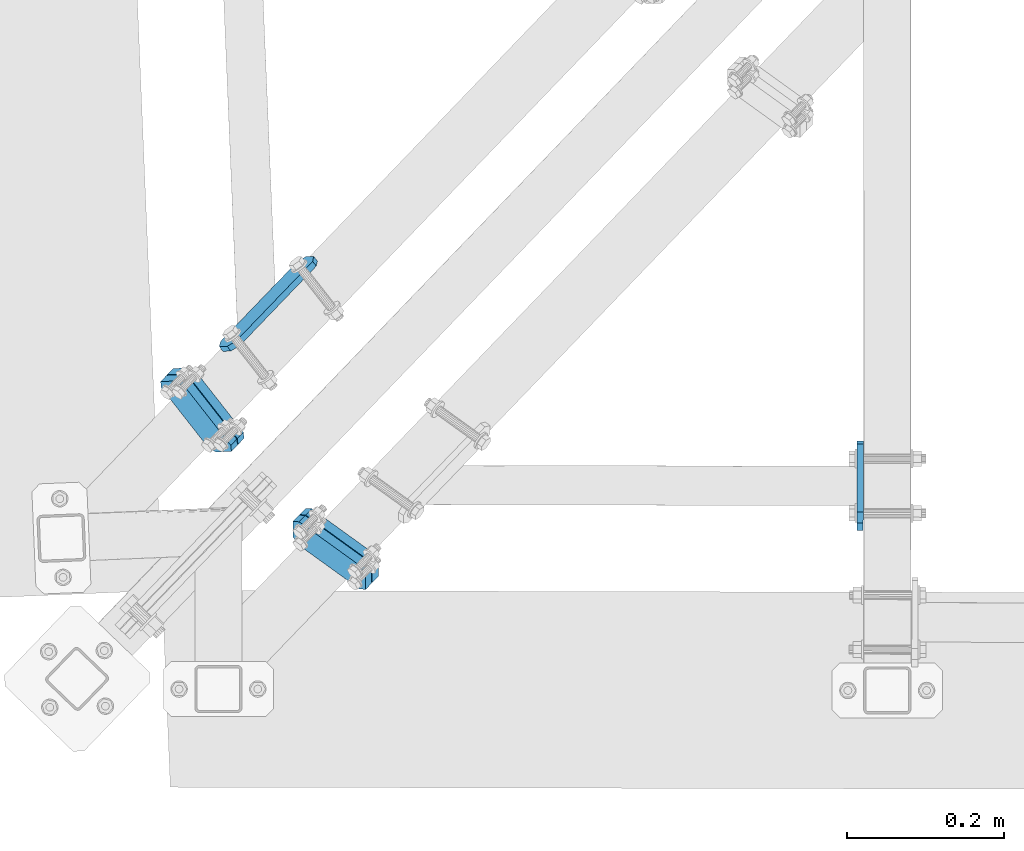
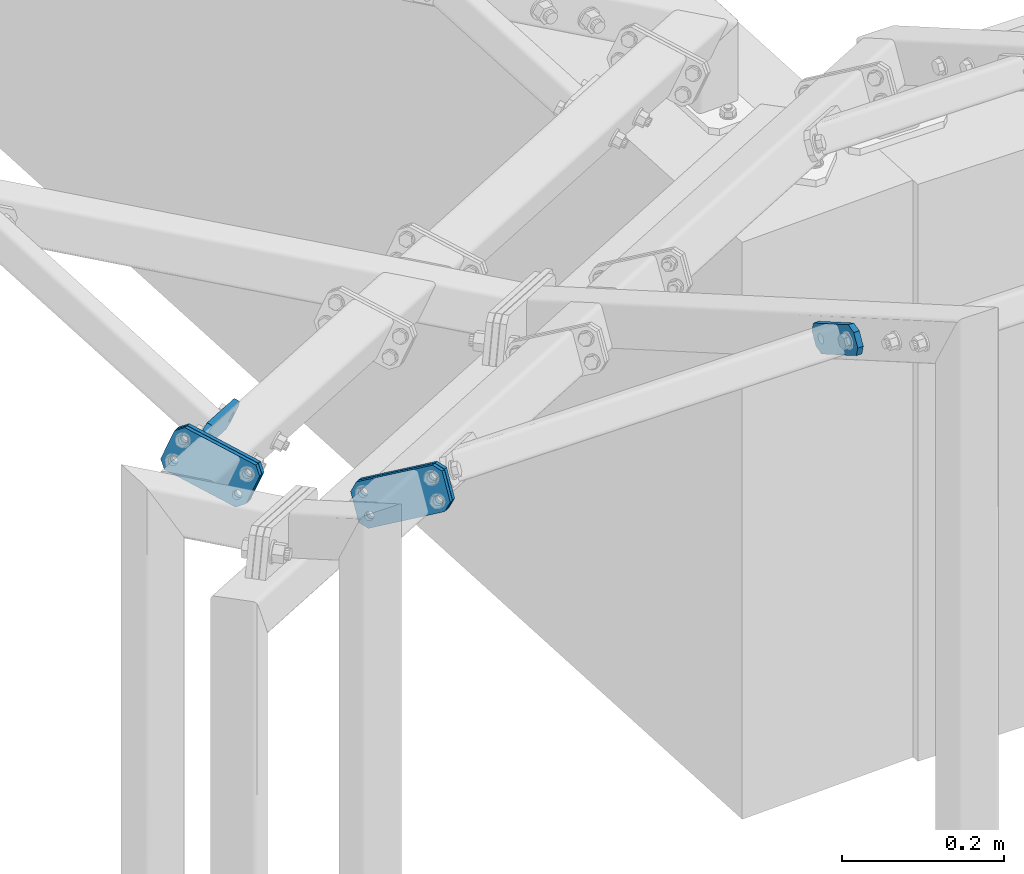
# One storey, part 23 of 288: 6 plates, 44 openings.
"""IFC2X3 building model written with IfcOpenShell, lengths in millimetres."""

import ifcopenshell
import ifcopenshell.guid

model = None  # the IFC model being written
_history = None  # IfcOwnerHistory: only IFC2X3 demands one
_inside = {}  # id of a spatial element -> (the spatial element, [elements in it])
_under = {}  # id of a project, library or spatial element -> (it, [spatial elements below it])
_declared = {}  # id of a project -> (the project, [libraries it declares])
_typed = {}  # id of a type object -> (the type object, [elements of that type])
_made_of = {}  # id of a material, layer set ... -> (it, [elements and type objects made of it])


def new_model(schema):
    """Start an empty IFC model of exactly this schema.

    Asked for "IFC4X3", IfcOpenShell would pick the latest addendum, in which some entities
    have other attributes; the version numbers below select the first issue.
    IFC2X3 requires an IfcOwnerHistory on every rooted entity: one is made here for all.
    """
    global model, _history
    if schema == "IFC4X3":
        model = ifcopenshell.file(schema_version=(4, 3, 0, 0))
    else:
        model = ifcopenshell.file(schema=schema)
    _inside.clear()
    _under.clear()
    _declared.clear()
    _typed.clear()
    _made_of.clear()
    _history = None
    if model.schema == "IFC2X3":
        org = make("IfcOrganization", Name="unknown")
        user = make(
            "IfcPersonAndOrganization",
            ThePerson=make("IfcPerson", FamilyName="unknown"),
            TheOrganization=org,
        )
        app = make(
            "IfcApplication",
            ApplicationDeveloper=org,
            Version="unknown",
            ApplicationFullName="unknown",
            ApplicationIdentifier="unknown",
        )
        _history = make(
            "IfcOwnerHistory",
            OwningUser=user,
            OwningApplication=app,
            ChangeAction="ADDED",
            CreationDate=0,
        )
    return model


def make(cls, **values):
    """One entity of the class cls with the attributes given. An attribute that is None is left unset."""
    return model.create_entity(
        cls, **{name: value for name, value in values.items() if value is not None}
    )


def entity(cls, *values):
    """Any entity or typed value of the class cls, its attributes in the order of the schema. None: left unset."""
    e = model.create_entity(cls)
    for i, value in enumerate(values):
        if value is not None:
            e[i] = value
    return e


def rooted(cls, **values):
    """An entity with a GlobalId (a new one), such as an element, a storey or a relation."""
    return make(cls, GlobalId=ifcopenshell.guid.new(), OwnerHistory=_history, **values)


def si_unit(unit_type, name, prefix=None):
    """IfcSIUnit, for example si_unit("LENGTHUNIT", "METRE", prefix="MILLI")."""
    return make("IfcSIUnit", UnitType=unit_type, Prefix=prefix, Name=name)


def converted_unit(unit_type, name, factor, base, dimensions=None, offset=None):
    """IfcConversionBasedUnit, such as the inch: factor (a typed value) times the base unit."""
    return make(
        "IfcConversionBasedUnit"
        if offset is None
        else "IfcConversionBasedUnitWithOffset",
        ConversionOffset=offset,
        Dimensions=None
        if dimensions is None
        else entity("IfcDimensionalExponents", *dimensions),
        UnitType=unit_type,
        Name=name,
        ConversionFactor=make(
            "IfcMeasureWithUnit", ValueComponent=factor, UnitComponent=base
        ),
    )


def assignment(units):
    """IfcUnitAssignment: the units of a project."""
    return None if units is None else make("IfcUnitAssignment", Units=units)


def point(xyz):
    """IfcCartesianPoint."""
    return None if xyz is None else make("IfcCartesianPoint", Coordinates=xyz)


def direction(xyz):
    """IfcDirection."""
    return None if xyz is None else make("IfcDirection", DirectionRatios=xyz)


def frame(location, z_axis=None, x_axis=None):
    """IfcAxis2Placement3D, a coordinate frame: its origin and axes. An axis left out is left unset."""
    return make(
        "IfcAxis2Placement3D",
        Location=point(location),
        Axis=direction(z_axis),
        RefDirection=direction(x_axis),
    )


def frame_2d(location, x_axis=None):
    """IfcAxis2Placement2D, a coordinate frame in the plane: its origin and x axis."""
    return make(
        "IfcAxis2Placement2D", Location=point(location), RefDirection=direction(x_axis)
    )


def origin():
    """The frame at (0, 0, 0) with its axes left unset."""
    return frame((0.0, 0.0, 0.0))


def origin_with_axes():
    """The frame at (0, 0, 0) with the z axis (0, 0, 1) and the x axis (1, 0, 0) written out."""
    return frame((0.0, 0.0, 0.0), z_axis=(0.0, 0.0, 1.0), x_axis=(1.0, 0.0, 0.0))


def origin_2d_with_axis():
    """The frame at (0, 0) in the plane with the x axis (1, 0) written out."""
    return frame_2d((0.0, 0.0), x_axis=(1.0, 0.0))


def place(relative_to, where):
    """IfcLocalPlacement: puts the frame where relative to a parent placement (None: the world)."""
    return make(
        "IfcLocalPlacement", PlacementRelTo=relative_to, RelativePlacement=where
    )


def context(
    kind, dimensions, precision=None, world=None, true_north=None, identifier=None
):
    """IfcGeometricRepresentationContext, for example the 3D "Model" context."""
    return make(
        "IfcGeometricRepresentationContext",
        ContextIdentifier=identifier,
        ContextType=kind,
        CoordinateSpaceDimension=dimensions,
        Precision=precision,
        WorldCoordinateSystem=world,
        TrueNorth=true_north,
    )


def project(units=None, contexts=None):
    """IfcProject with its units and contexts."""
    return rooted(
        "IfcProject",
        Name="project",
        RepresentationContexts=contexts,
        UnitsInContext=assignment(units),
    )


def spatial(cls, under=None, at=None, **own):
    """A site, building, storey or space (cls), placed at a placement, below another one or the project."""
    s = rooted(cls, ObjectPlacement=at, **own)
    if under is not None:
        _under.setdefault(under.id(), (under, []))[1].append(s)
    return s


def polyline(points):
    """IfcPolyline through the points."""
    return make("IfcPolyline", Points=[point(p) for p in points])


def circle_curve(where, radius):
    """IfcCircle in the frame where."""
    return make("IfcCircle", Position=where, Radius=radius)


def line_curve(start, along, magnitude):
    """IfcLine from a point along a vector."""
    return make(
        "IfcLine",
        Pnt=point(start),
        Dir=make("IfcVector", Orientation=direction(along), Magnitude=magnitude),
    )


def trimmed(basis, trim1, trim2, sense, master):
    """IfcTrimmedCurve: the piece of a basis curve between two trims."""
    return make(
        "IfcTrimmedCurve",
        BasisCurve=basis,
        Trim1=trim1,
        Trim2=trim2,
        SenseAgreement=sense,
        MasterRepresentation=master,
    )


def segment(curve, same_sense, transition):
    """IfcCompositeCurveSegment."""
    return make(
        "IfcCompositeCurveSegment",
        Transition=transition,
        SameSense=same_sense,
        ParentCurve=curve,
    )


def composite_curve(segments, self_intersect=None):
    """IfcCompositeCurve: segments joined end to end."""
    return make("IfcCompositeCurve", Segments=segments, SelfIntersect=self_intersect)


def profile(cls, at=None, kind="AREA", **sizes):
    """A parametric profile (cls). Its sizes go by their IFC names, for example OverallWidth=200.0."""
    return make(cls, ProfileType=kind, Position=at, **sizes)


def circle(**sizes):
    """IfcCircleProfileDef."""
    return profile("IfcCircleProfileDef", **sizes)


def outline(outer, holes=None, kind="AREA"):
    """IfcArbitraryClosedProfileDef: a profile drawn as a closed curve; with holes, ...WithVoids."""
    if holes is None:
        return make("IfcArbitraryClosedProfileDef", ProfileType=kind, OuterCurve=outer)
    return make(
        "IfcArbitraryProfileDefWithVoids",
        ProfileType=kind,
        OuterCurve=outer,
        InnerCurves=holes,
    )


def extrude(swept, where, along, depth):
    """IfcExtrudedAreaSolid: the profile swept, set in the frame where, extruded along a direction by depth."""
    return make(
        "IfcExtrudedAreaSolid",
        SweptArea=swept,
        Position=where,
        ExtrudedDirection=direction(along),
        Depth=depth,
    )


def shape(context_of_items, identifier, shape_type, items):
    """IfcShapeRepresentation: the items that make up one representation, for example the "Body"."""
    return make(
        "IfcShapeRepresentation",
        ContextOfItems=context_of_items,
        RepresentationIdentifier=identifier,
        RepresentationType=shape_type,
        Items=items,
    )


def material(Name=None, Category=None):
    """IfcMaterial."""
    return make("IfcMaterial", Name=Name, Category=Category)


def layer(
    of_material, thickness, ventilated=None, Name=None, Category=None, Priority=None
):
    """IfcMaterialLayer: one layer of a wall or slab, of a material (None: an air gap)."""
    return make(
        "IfcMaterialLayer",
        Material=of_material,
        LayerThickness=thickness,
        IsVentilated=ventilated,
        Name=Name,
        Category=Category,
        Priority=Priority,
    )


def layer_set(layers, Name=None):
    """IfcMaterialLayerSet."""
    return make("IfcMaterialLayerSet", MaterialLayers=layers, LayerSetName=Name)


def made_of(thing, what):
    """Note that an element or type object is made of a material, layer set ...; save() writes the relation."""
    if what is not None:
        _made_of.setdefault(what.id(), (what, []))[1].append(thing)
    return thing


def element(
    cls,
    number,
    at=None,
    inside=None,
    cuts=None,
    type_object=None,
    material=None,
    context=None,
    identifier="Body",
    shape_type=None,
    held_by="IfcProductDefinitionShape",
    body=None,
    shapes=None,
    **own,
):
    """One element of the class cls, such as IfcWall. Its Tag is "e" and its number.

    at: its placement. inside: the storey or other place that contains it. cuts: it is an
    opening in that element (IfcRelVoidsElement). A single representation is given by context,
    identifier, shape_type and body (its items); several are given by shapes. held_by: the class
    of the entity that holds the representations. save() writes the other relations.
    """
    e = rooted(cls, Tag="e%d" % number, ObjectPlacement=at, **own)
    if body is not None:
        shapes = [shape(context, identifier, shape_type, body)]
    if shapes is not None:
        e.Representation = make(held_by, Representations=shapes)
    if inside is not None:
        _inside.setdefault(inside.id(), (inside, []))[1].append(e)
    if cuts is not None:
        rooted(
            "IfcRelVoidsElement", RelatingBuildingElement=cuts, RelatedOpeningElement=e
        )
    if type_object is not None:
        _typed.setdefault(type_object.id(), (type_object, []))[1].append(e)
    return made_of(e, material)


def aggregate(whole, parts):
    """IfcRelAggregates: a whole, such as a stair, and the parts it consists of."""
    return rooted("IfcRelAggregates", RelatingObject=whole, RelatedObjects=parts)


def save(model, path):
    """Write the relations noted so far, then the file.

    IfcRelAggregates (storeys below a building ...), IfcRelContainedInSpatialStructure (elements
    in a storey), IfcRelDefinesByType, IfcRelAssociatesMaterial and IfcRelDeclares: one each for
    every whole, place, type object, material and project.
    """
    for whole, parts in _under.values():
        aggregate(whole, parts)
    for where, things in _inside.values():
        rooted(
            "IfcRelContainedInSpatialStructure",
            RelatedElements=things,
            RelatingStructure=where,
        )
    for kind, things in _typed.values():
        rooted("IfcRelDefinesByType", RelatedObjects=things, RelatingType=kind)
    for what, things in _made_of.values():
        rooted("IfcRelAssociatesMaterial", RelatedObjects=things, RelatingMaterial=what)
    for by, libraries in _declared.values():
        rooted("IfcRelDeclares", RelatingContext=by, RelatedDefinitions=libraries)
    model.write(path)


model = new_model("IFC2X3")

# Units and contexts
model_context = context("Model", 3, precision=1e-09, world=origin_with_axes())
ifc_project = project(units=[si_unit("LENGTHUNIT", "METRE", prefix="MILLI"), si_unit("AREAUNIT", "SQUARE_METRE"), si_unit("VOLUMEUNIT", "CUBIC_METRE"), converted_unit("PLANEANGLEUNIT", "DEGREE", entity("IfcPlaneAngleMeasure", 0.01745329), si_unit("PLANEANGLEUNIT", "RADIAN"), dimensions=[0, 0, 0, 0, 0, 0, 0])], contexts=[model_context])

# Site, building, storey
site_placement = place(None, origin_with_axes())
site = spatial("IfcSite", under=ifc_project, at=site_placement, Name="Remont ?wietlik?w nad MC w NCPP w Opolu", CompositionType="ELEMENT")
building_placement = place(site_placement, origin_with_axes())
building = spatial("IfcBuilding", under=site, at=building_placement, Name="Konstrukcja 1", CompositionType="ELEMENT")
storey_placement = place(building_placement, origin_with_axes())
storey = spatial("IfcBuildingStorey", under=building, at=storey_placement, Name="Default Storey", CompositionType="ELEMENT", Elevation=0.0)

# Plate, openings
ifc_material = material(Name="S235")
ifc_layer_1 = layer(ifc_material, 8.0)
ifc_layer_set_1 = layer_set([ifc_layer_1], Name="S235")
plate_1_placement = place(None, frame((883.064238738, 70.94446698, 1132.628219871), z_axis=(0.999997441, -0.002262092, 1.05e-07), x_axis=(0.001959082, 0.866023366, -0.499999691)))
plate_1 = element("IfcPlate", 1, at=plate_1_placement, inside=storey, material=ifc_layer_set_1, Name="-", ObjectType="-", context=model_context, shape_type="SweptSolid", body=[
    extrude(outline(polyline([(0.0, 0.0), (120.0, 0.0), (120.0, 40.0), (0.0, 40.0), (0.0, 0.0)])), origin_with_axes(), (0.0, 0.0, 1.0), 8.0),
])
opening_1_placement = place(plate_1_placement, frame((0.0, 0.0, -0.01), z_axis=(0.0, 0.0, 1.0), x_axis=(1.0, 0.0, 0.0)))
element("IfcOpeningElement", 2, at=opening_1_placement, cuts=plate_1, ObjectType="Opening", context=model_context, shape_type="SweptSolid", body=[
    extrude(outline(composite_curve([segment(trimmed(line_curve((0.0, 40.0), (0.0, -1.0), 10.0), [point((0.0, 40.0))], [point((0.0, 30.0))], True, "CARTESIAN"), True, "CONTINUOUS"), segment(trimmed(circle_curve(frame_2d((10.0, 30.0), x_axis=(-1.0, 0.0)), 10.0), [point((0.0, 30.0))], [point((10.0, 40.0))], False, "CARTESIAN"), True, "CONTINUOUS"), segment(trimmed(line_curve((10.0, 40.0), (-1.0, 0.0), 10.0), [point((10.0, 40.0))], [point((0.0, 40.0))], True, "CARTESIAN"), True, "CONTINUOUS")], self_intersect=False)), origin(), (0.0, 0.0, 1.0), 8.02),
])
opening_2_placement = place(plate_1_placement, frame((0.0, 0.0, -0.01), z_axis=(0.0, 0.0, 1.0), x_axis=(1.0, 0.0, 0.0)))
element("IfcOpeningElement", 3, at=opening_2_placement, cuts=plate_1, ObjectType="Opening", context=model_context, shape_type="SweptSolid", body=[
    extrude(outline(composite_curve([segment(trimmed(line_curve((0.0, 0.0), (1.0, 0.0), 10.0), [point((0.0, 0.0))], [point((10.0, 0.0))], True, "CARTESIAN"), True, "CONTINUOUS"), segment(trimmed(circle_curve(frame_2d((10.0, 10.0), x_axis=(-1.0, 0.0)), 10.0), [point((10.0, 0.0))], [point((0.0, 10.0))], False, "CARTESIAN"), True, "CONTINUOUS"), segment(trimmed(line_curve((0.0, 10.0), (0.0, -1.0), 10.0), [point((0.0, 10.0))], [point((0.0, 0.0))], True, "CARTESIAN"), True, "CONTINUOUS")], self_intersect=False)), origin(), (0.0, 0.0, 1.0), 8.02),
])
opening_3_placement = place(plate_1_placement, frame((0.0, 0.0, -0.01), z_axis=(0.0, 0.0, 1.0), x_axis=(1.0, 0.0, 0.0)))
element("IfcOpeningElement", 4, at=opening_3_placement, cuts=plate_1, ObjectType="Opening", context=model_context, shape_type="SweptSolid", body=[
    extrude(outline(composite_curve([segment(trimmed(line_curve((120.0, 40.0), (-1.0, 0.0), 10.0), [point((120.0, 40.0))], [point((110.0, 40.0))], True, "CARTESIAN"), True, "CONTINUOUS"), segment(trimmed(circle_curve(frame_2d((110.0, 30.0), x_axis=(-1.0, 0.0)), 10.0), [point((110.0, 40.0))], [point((120.0, 30.0))], False, "CARTESIAN"), True, "CONTINUOUS"), segment(trimmed(line_curve((120.0, 30.0), (0.0, 1.0), 10.0), [point((120.0, 30.0))], [point((120.0, 40.0))], True, "CARTESIAN"), True, "CONTINUOUS")], self_intersect=False)), origin(), (0.0, 0.0, 1.0), 8.02),
])
opening_4_placement = place(plate_1_placement, frame((0.0, 0.0, -0.01), z_axis=(0.0, 0.0, 1.0), x_axis=(1.0, 0.0, 0.0)))
element("IfcOpeningElement", 5, at=opening_4_placement, cuts=plate_1, ObjectType="Opening", context=model_context, shape_type="SweptSolid", body=[
    extrude(outline(composite_curve([segment(trimmed(line_curve((120.0, 0.0), (0.0, 1.0), 10.0), [point((120.0, 0.0))], [point((120.0, 10.0))], True, "CARTESIAN"), True, "CONTINUOUS"), segment(trimmed(circle_curve(frame_2d((110.0, 10.0), x_axis=(-1.0, 0.0)), 10.0), [point((120.0, 10.0))], [point((110.0, 0.0))], False, "CARTESIAN"), True, "CONTINUOUS"), segment(trimmed(line_curve((110.0, 0.0), (1.0, 0.0), 10.0), [point((110.0, 0.0))], [point((120.0, 0.0))], True, "CARTESIAN"), True, "CONTINUOUS")], self_intersect=False)), origin(), (0.0, 0.0, 1.0), 8.02),
])
opening_5_placement = place(plate_1_placement, frame((60.0, 20.000292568, 8.5), z_axis=(0.0, 0.0, -1.0), x_axis=(-1.0, 0.0, 0.0)))
element("IfcOpeningElement", 6, at=opening_5_placement, cuts=plate_1, ObjectType="Opening", context=model_context, shape_type="SweptSolid", body=[
    extrude(circle(Radius=7.001, at=frame_2d((40.0, 0.0), x_axis=(1.0, 0.0))), origin(), (0.0, 0.0, 1.0), 9.0),
])
opening_6_placement = place(plate_1_placement, frame((60.0, 20.000292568, 8.5), z_axis=(0.0, 0.0, -1.0), x_axis=(-1.0, 0.0, 0.0)))
element("IfcOpeningElement", 7, at=opening_6_placement, cuts=plate_1, ObjectType="Opening", context=model_context, shape_type="SweptSolid", body=[
    extrude(circle(Radius=7.001, at=frame_2d((-40.0, 0.0), x_axis=(1.0, 0.0))), origin(), (0.0, 0.0, 1.0), 9.0),
])

ifc_layer_2 = layer(ifc_material, 12.0)
ifc_layer_set_2 = layer_set([ifc_layer_2], Name="S235")
plate_2_placement = place(None, frame((267.101011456, 34.978434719, 1211.077748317), z_axis=(0.639790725, 0.665583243, -0.384274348), x_axis=(0.0, -0.499999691, -0.866025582)))
plate_2 = element("IfcPlate", 8, at=plate_2_placement, inside=storey, material=ifc_layer_set_2, Name="Endplate#1", ObjectType="Endplate#1", context=model_context, shape_type="SweptSolid", body=[
    extrude(outline(polyline([(0.0, 0.0), (60.0, 0.0), (60.0, 120.0), (0.0, 120.0), (0.0, 0.0)])), origin_with_axes(), (0.0, 0.0, 1.0), 12.0),
])
opening_7_placement = place(plate_2_placement, frame((0.0, 0.0, -0.01), z_axis=(0.0, 0.0, 1.0), x_axis=(1.0, 0.0, 0.0)))
element("IfcOpeningElement", 9, at=opening_7_placement, cuts=plate_2, ObjectType="Opening", context=model_context, shape_type="SweptSolid", body=[
    extrude(outline(composite_curve([segment(trimmed(line_curve((0.0, 0.0), (1.0, 0.0), 10.0), [point((0.0, 0.0))], [point((10.0, 0.0))], True, "CARTESIAN"), True, "CONTINUOUS"), segment(trimmed(circle_curve(frame_2d((10.0, 10.0), x_axis=(-1.0, 0.0)), 10.0), [point((10.0, 0.0))], [point((0.0, 10.0))], False, "CARTESIAN"), True, "CONTINUOUS"), segment(trimmed(line_curve((0.0, 10.0), (0.0, -1.0), 10.0), [point((0.0, 10.0))], [point((0.0, 0.0))], True, "CARTESIAN"), True, "CONTINUOUS")], self_intersect=False)), origin(), (0.0, 0.0, 1.0), 12.02),
])
opening_8_placement = place(plate_2_placement, frame((0.0, 0.0, -0.01), z_axis=(0.0, 0.0, 1.0), x_axis=(1.0, 0.0, 0.0)))
element("IfcOpeningElement", 10, at=opening_8_placement, cuts=plate_2, ObjectType="Opening", context=model_context, shape_type="SweptSolid", body=[
    extrude(outline(composite_curve([segment(trimmed(line_curve((60.0, 0.0), (0.0, 1.0), 10.0), [point((60.0, 0.0))], [point((60.0, 10.0))], True, "CARTESIAN"), True, "CONTINUOUS"), segment(trimmed(circle_curve(frame_2d((50.0, 10.0), x_axis=(-1.0, 0.0)), 10.0), [point((60.0, 10.0))], [point((50.0, 0.0))], False, "CARTESIAN"), True, "CONTINUOUS"), segment(trimmed(line_curve((50.0, 0.0), (1.0, 0.0), 10.0), [point((50.0, 0.0))], [point((60.0, 0.0))], True, "CARTESIAN"), True, "CONTINUOUS")], self_intersect=False)), origin(), (0.0, 0.0, 1.0), 12.02),
])
opening_9_placement = place(plate_2_placement, frame((0.0, 0.0, -0.01), z_axis=(0.0, 0.0, 1.0), x_axis=(1.0, 0.0, 0.0)))
element("IfcOpeningElement", 11, at=opening_9_placement, cuts=plate_2, ObjectType="Opening", context=model_context, shape_type="SweptSolid", body=[
    extrude(outline(composite_curve([segment(trimmed(line_curve((0.0, 120.0), (0.0, -1.0), 10.0), [point((0.0, 120.0))], [point((0.0, 110.0))], True, "CARTESIAN"), True, "CONTINUOUS"), segment(trimmed(circle_curve(frame_2d((10.0, 110.0), x_axis=(-1.0, 0.0)), 10.0), [point((0.0, 110.0))], [point((10.0, 120.0))], False, "CARTESIAN"), True, "CONTINUOUS"), segment(trimmed(line_curve((10.0, 120.0), (-1.0, 0.0), 10.0), [point((10.0, 120.0))], [point((0.0, 120.0))], True, "CARTESIAN"), True, "CONTINUOUS")], self_intersect=False)), origin(), (0.0, 0.0, 1.0), 12.02),
])
opening_10_placement = place(plate_2_placement, frame((0.0, 0.0, -0.01), z_axis=(0.0, 0.0, 1.0), x_axis=(1.0, 0.0, 0.0)))
element("IfcOpeningElement", 12, at=opening_10_placement, cuts=plate_2, ObjectType="Opening", context=model_context, shape_type="SweptSolid", body=[
    extrude(outline(composite_curve([segment(trimmed(line_curve((60.0, 120.0), (-1.0, 0.0), 10.0), [point((60.0, 120.0))], [point((50.0, 120.0))], True, "CARTESIAN"), True, "CONTINUOUS"), segment(trimmed(circle_curve(frame_2d((50.0, 110.0), x_axis=(-1.0, 0.0)), 10.0), [point((50.0, 120.0))], [point((60.0, 110.0))], False, "CARTESIAN"), True, "CONTINUOUS"), segment(trimmed(line_curve((60.0, 110.0), (0.0, 1.0), 10.0), [point((60.0, 110.0))], [point((60.0, 120.0))], True, "CARTESIAN"), True, "CONTINUOUS")], self_intersect=False)), origin(), (0.0, 0.0, 1.0), 12.02),
])
opening_11_placement = place(plate_2_placement, frame((15.0, 60.0, 12.5), z_axis=(0.0, 0.0, -1.0), x_axis=(1.0, 0.0, 0.0)))
element("IfcOpeningElement", 13, at=opening_11_placement, cuts=plate_2, ObjectType="Opening", context=model_context, shape_type="SweptSolid", body=[
    extrude(circle(Radius=6.001, at=frame_2d((0.0, 45.0), x_axis=(1.0, 0.0))), origin(), (0.0, 0.0, 1.0), 13.0),
])
opening_12_placement = place(plate_2_placement, frame((15.0, 60.0, 12.5), z_axis=(0.0, 0.0, -1.0), x_axis=(1.0, 0.0, 0.0)))
element("IfcOpeningElement", 14, at=opening_12_placement, cuts=plate_2, ObjectType="Opening", context=model_context, shape_type="SweptSolid", body=[
    extrude(circle(Radius=6.001, at=frame_2d((0.0, -45.0), x_axis=(1.0, 0.0))), origin(), (0.0, 0.0, 1.0), 13.0),
])
opening_13_placement = place(plate_2_placement, frame((45.0, 60.0, 12.5), z_axis=(0.0, 0.0, -1.0), x_axis=(1.0, 0.0, 0.0)))
element("IfcOpeningElement", 15, at=opening_13_placement, cuts=plate_2, ObjectType="Opening", context=model_context, shape_type="SweptSolid", body=[
    extrude(circle(Radius=6.001, at=frame_2d((0.0, 45.0), x_axis=(1.0, 0.0))), origin(), (0.0, 0.0, 1.0), 13.0),
])
opening_14_placement = place(plate_2_placement, frame((45.0, 60.0, 12.5), z_axis=(0.0, 0.0, -1.0), x_axis=(1.0, 0.0, 0.0)))
element("IfcOpeningElement", 16, at=opening_14_placement, cuts=plate_2, ObjectType="Opening", context=model_context, shape_type="SweptSolid", body=[
    extrude(circle(Radius=6.001, at=frame_2d((0.0, -45.0), x_axis=(1.0, 0.0))), origin(), (0.0, 0.0, 1.0), 13.0),
])

plate_3_placement = place(None, frame((258.783732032, 26.325852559, 1216.073314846), z_axis=(0.639790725, 0.665583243, -0.384274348), x_axis=(0.0, -0.499999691, -0.866025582)))
plate_3 = element("IfcPlate", 17, at=plate_3_placement, inside=storey, material=ifc_layer_set_2, Name="Endplate#2", ObjectType="Endplate#2", context=model_context, shape_type="SweptSolid", body=[
    extrude(outline(polyline([(0.0, 0.0), (60.0, 0.0), (60.0, 120.0), (0.0, 120.0), (0.0, 0.0)])), origin_with_axes(), (0.0, 0.0, 1.0), 12.0),
])
opening_15_placement = place(plate_3_placement, frame((0.0, 0.0, -0.01), z_axis=(0.0, 0.0, 1.0), x_axis=(1.0, 0.0, 0.0)))
element("IfcOpeningElement", 18, at=opening_15_placement, cuts=plate_3, ObjectType="Opening", context=model_context, shape_type="SweptSolid", body=[
    extrude(outline(composite_curve([segment(trimmed(line_curve((0.0, 0.0), (1.0, 0.0), 10.0), [point((0.0, 0.0))], [point((10.0, 0.0))], True, "CARTESIAN"), True, "CONTINUOUS"), segment(trimmed(circle_curve(frame_2d((10.0, 10.0), x_axis=(-1.0, 0.0)), 10.0), [point((10.0, 0.0))], [point((0.0, 10.0))], False, "CARTESIAN"), True, "CONTINUOUS"), segment(trimmed(line_curve((0.0, 10.0), (0.0, -1.0), 10.0), [point((0.0, 10.0))], [point((0.0, 0.0))], True, "CARTESIAN"), True, "CONTINUOUS")], self_intersect=False)), origin(), (0.0, 0.0, 1.0), 12.02),
])
opening_16_placement = place(plate_3_placement, frame((0.0, 0.0, -0.01), z_axis=(0.0, 0.0, 1.0), x_axis=(1.0, 0.0, 0.0)))
element("IfcOpeningElement", 19, at=opening_16_placement, cuts=plate_3, ObjectType="Opening", context=model_context, shape_type="SweptSolid", body=[
    extrude(outline(composite_curve([segment(trimmed(line_curve((60.0, 0.0), (0.0, 1.0), 10.0), [point((60.0, 0.0))], [point((60.0, 10.0))], True, "CARTESIAN"), True, "CONTINUOUS"), segment(trimmed(circle_curve(frame_2d((50.0, 10.0), x_axis=(-1.0, 0.0)), 10.0), [point((60.0, 10.0))], [point((50.0, 0.0))], False, "CARTESIAN"), True, "CONTINUOUS"), segment(trimmed(line_curve((50.0, 0.0), (1.0, 0.0), 10.0), [point((50.0, 0.0))], [point((60.0, 0.0))], True, "CARTESIAN"), True, "CONTINUOUS")], self_intersect=False)), origin(), (0.0, 0.0, 1.0), 12.02),
])
opening_17_placement = place(plate_3_placement, frame((0.0, 0.0, -0.01), z_axis=(0.0, 0.0, 1.0), x_axis=(1.0, 0.0, 0.0)))
element("IfcOpeningElement", 20, at=opening_17_placement, cuts=plate_3, ObjectType="Opening", context=model_context, shape_type="SweptSolid", body=[
    extrude(outline(composite_curve([segment(trimmed(line_curve((0.0, 120.0), (0.0, -1.0), 10.0), [point((0.0, 120.0))], [point((0.0, 110.0))], True, "CARTESIAN"), True, "CONTINUOUS"), segment(trimmed(circle_curve(frame_2d((10.0, 110.0), x_axis=(-1.0, 0.0)), 10.0), [point((0.0, 110.0))], [point((10.0, 120.0))], False, "CARTESIAN"), True, "CONTINUOUS"), segment(trimmed(line_curve((10.0, 120.0), (-1.0, 0.0), 10.0), [point((10.0, 120.0))], [point((0.0, 120.0))], True, "CARTESIAN"), True, "CONTINUOUS")], self_intersect=False)), origin(), (0.0, 0.0, 1.0), 12.02),
])
opening_18_placement = place(plate_3_placement, frame((0.0, 0.0, -0.01), z_axis=(0.0, 0.0, 1.0), x_axis=(1.0, 0.0, 0.0)))
element("IfcOpeningElement", 21, at=opening_18_placement, cuts=plate_3, ObjectType="Opening", context=model_context, shape_type="SweptSolid", body=[
    extrude(outline(composite_curve([segment(trimmed(line_curve((60.0, 120.0), (-1.0, 0.0), 10.0), [point((60.0, 120.0))], [point((50.0, 120.0))], True, "CARTESIAN"), True, "CONTINUOUS"), segment(trimmed(circle_curve(frame_2d((50.0, 110.0), x_axis=(-1.0, 0.0)), 10.0), [point((50.0, 120.0))], [point((60.0, 110.0))], False, "CARTESIAN"), True, "CONTINUOUS"), segment(trimmed(line_curve((60.0, 110.0), (0.0, 1.0), 10.0), [point((60.0, 110.0))], [point((60.0, 120.0))], True, "CARTESIAN"), True, "CONTINUOUS")], self_intersect=False)), origin(), (0.0, 0.0, 1.0), 12.02),
])
opening_19_placement = place(plate_3_placement, frame((45.0, 60.0, 12.5), z_axis=(0.0, 0.0, -1.0), x_axis=(1.0, 0.0, 0.0)))
element("IfcOpeningElement", 22, at=opening_19_placement, cuts=plate_3, ObjectType="Opening", context=model_context, shape_type="SweptSolid", body=[
    extrude(circle(Radius=6.001, at=frame_2d((0.0, 45.0), x_axis=(1.0, 0.0))), origin(), (0.0, 0.0, 1.0), 13.0),
])
opening_20_placement = place(plate_3_placement, frame((45.0, 60.0, 12.5), z_axis=(0.0, 0.0, -1.0), x_axis=(1.0, 0.0, 0.0)))
element("IfcOpeningElement", 23, at=opening_20_placement, cuts=plate_3, ObjectType="Opening", context=model_context, shape_type="SweptSolid", body=[
    extrude(circle(Radius=6.001, at=frame_2d((0.0, -45.0), x_axis=(1.0, 0.0))), origin(), (0.0, 0.0, 1.0), 13.0),
])
opening_21_placement = place(plate_3_placement, frame((15.0, 60.0, 12.5), z_axis=(0.0, 0.0, -1.0), x_axis=(1.0, 0.0, 0.0)))
element("IfcOpeningElement", 24, at=opening_21_placement, cuts=plate_3, ObjectType="Opening", context=model_context, shape_type="SweptSolid", body=[
    extrude(circle(Radius=6.001, at=frame_2d((0.0, 45.0), x_axis=(1.0, 0.0))), origin(), (0.0, 0.0, 1.0), 13.0),
])
opening_22_placement = place(plate_3_placement, frame((15.0, 60.0, 12.5), z_axis=(0.0, 0.0, -1.0), x_axis=(1.0, 0.0, 0.0)))
element("IfcOpeningElement", 25, at=opening_22_placement, cuts=plate_3, ObjectType="Opening", context=model_context, shape_type="SweptSolid", body=[
    extrude(circle(Radius=6.001, at=frame_2d((0.0, -45.0), x_axis=(1.0, 0.0))), origin(), (0.0, 0.0, 1.0), 13.0),
])

plate_4_placement = place(None, frame((172.189827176, 398.249526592, 1111.787269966), z_axis=(0.584245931, -0.746219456, -0.319081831), x_axis=(-0.639601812, -0.665374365, 0.384949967)))
plate_4 = element("IfcPlate", 26, at=plate_4_placement, inside=storey, material=ifc_layer_set_1, Name="-", ObjectType="-", context=model_context, shape_type="SweptSolid", body=[
    extrude(outline(polyline([(-40.0, 0.0), (131.95358451, 0.0), (131.95358451, 40.000141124), (-40.0, 40.000141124), (-40.0, 0.0)])), origin_with_axes(), (0.0, 0.0, 1.0), 8.0),
])
opening_23_placement = place(plate_4_placement, frame((0.0, 0.0, -0.01), z_axis=(0.0, 0.0, 1.0), x_axis=(1.0, 0.0, 0.0)))
element("IfcOpeningElement", 27, at=opening_23_placement, cuts=plate_4, ObjectType="Opening", context=model_context, shape_type="SweptSolid", body=[
    extrude(outline(composite_curve([segment(trimmed(line_curve((-40.0, 0.0), (1.0, 0.0), 10.0), [point((-40.0, 0.0))], [point((-30.0, 0.0))], True, "CARTESIAN"), True, "CONTINUOUS"), segment(trimmed(circle_curve(frame_2d((-30.0, 10.0), x_axis=(-1.0, 0.0)), 10.0), [point((-30.0, 0.0))], [point((-40.0, 10.0))], False, "CARTESIAN"), True, "CONTINUOUS"), segment(trimmed(line_curve((-40.0, 10.0), (0.0, -1.0), 10.0), [point((-40.0, 10.0))], [point((-40.0, 0.0))], True, "CARTESIAN"), True, "CONTINUOUS")], self_intersect=False)), origin(), (0.0, 0.0, 1.0), 8.02),
])
opening_24_placement = place(plate_4_placement, frame((0.0, 0.0, -0.01), z_axis=(0.0, 0.0, 1.0), x_axis=(1.0, 0.0, 0.0)))
element("IfcOpeningElement", 28, at=opening_24_placement, cuts=plate_4, ObjectType="Opening", context=model_context, shape_type="SweptSolid", body=[
    extrude(outline(composite_curve([segment(trimmed(line_curve((-40.0, 40.000141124), (0.0, -1.0), 10.0), [point((-40.0, 40.000141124))], [point((-40.0, 30.000141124))], True, "CARTESIAN"), True, "CONTINUOUS"), segment(trimmed(circle_curve(frame_2d((-30.0, 30.000141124), x_axis=(-1.0, 0.0)), 10.0), [point((-40.0, 30.000141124))], [point((-30.0, 40.000141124))], False, "CARTESIAN"), True, "CONTINUOUS"), segment(trimmed(line_curve((-30.0, 40.000141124), (-1.0, 0.0), 10.0), [point((-30.0, 40.000141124))], [point((-40.0, 40.000141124))], True, "CARTESIAN"), True, "CONTINUOUS")], self_intersect=False)), origin(), (0.0, 0.0, 1.0), 8.02),
])
opening_25_placement = place(plate_4_placement, frame((0.0, 0.0, -0.01), z_axis=(0.0, 0.0, 1.0), x_axis=(1.0, 0.0, 0.0)))
element("IfcOpeningElement", 29, at=opening_25_placement, cuts=plate_4, ObjectType="Opening", context=model_context, shape_type="SweptSolid", body=[
    extrude(outline(composite_curve([segment(trimmed(line_curve((131.95358451, 0.0), (0.0, 1.0), 10.0), [point((131.95358451, 0.0))], [point((131.95358451, 10.0))], True, "CARTESIAN"), True, "CONTINUOUS"), segment(trimmed(circle_curve(frame_2d((121.95358451, 10.0), x_axis=(-1.0, 0.0)), 10.0), [point((131.95358451, 10.0))], [point((121.95358451, 0.0))], False, "CARTESIAN"), True, "CONTINUOUS"), segment(trimmed(line_curve((121.95358451, 0.0), (1.0, 0.0), 10.0), [point((121.95358451, 0.0))], [point((131.95358451, 0.0))], True, "CARTESIAN"), True, "CONTINUOUS")], self_intersect=False)), origin(), (0.0, 0.0, 1.0), 8.02),
])
opening_26_placement = place(plate_4_placement, frame((0.0, 0.0, -0.01), z_axis=(0.0, 0.0, 1.0), x_axis=(1.0, 0.0, 0.0)))
element("IfcOpeningElement", 30, at=opening_26_placement, cuts=plate_4, ObjectType="Opening", context=model_context, shape_type="SweptSolid", body=[
    extrude(outline(composite_curve([segment(trimmed(line_curve((131.95358451, 40.000141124), (-1.0, 0.0), 10.0), [point((131.95358451, 40.000141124))], [point((121.95358451, 40.000141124))], True, "CARTESIAN"), True, "CONTINUOUS"), segment(trimmed(circle_curve(frame_2d((121.95358451, 30.000141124), x_axis=(-1.0, 0.0)), 10.0), [point((121.95358451, 40.000141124))], [point((131.95358451, 30.000141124))], False, "CARTESIAN"), True, "CONTINUOUS"), segment(trimmed(line_curve((131.95358451, 30.000141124), (0.0, 1.0), 10.0), [point((131.95358451, 30.000141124))], [point((131.95358451, 40.000141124))], True, "CARTESIAN"), True, "CONTINUOUS")], self_intersect=False)), origin(), (0.0, 0.0, 1.0), 8.02),
])
opening_27_placement = place(plate_4_placement, frame((-20.0, 20.000035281, 8.5), z_axis=(0.0, 0.0, -1.0), x_axis=(1.0, 0.0, 0.0)))
element("IfcOpeningElement", 31, at=opening_27_placement, cuts=plate_4, ObjectType="Opening", context=model_context, shape_type="SweptSolid", body=[
    extrude(circle(Radius=7.001, at=origin_2d_with_axis()), origin(), (0.0, 0.0, 1.0), 9.0),
])
opening_28_placement = place(plate_4_placement, frame((111.95358451, 20.000141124, 8.5), z_axis=(0.0, 0.0, -1.0), x_axis=(1.0, 0.0, 0.0)))
element("IfcOpeningElement", 32, at=opening_28_placement, cuts=plate_4, ObjectType="Opening", context=model_context, shape_type="SweptSolid", body=[
    extrude(circle(Radius=7.001, at=origin_2d_with_axis()), origin(), (0.0, 0.0, 1.0), 9.0),
])

plate_5_placement = place(None, frame((1.45535779, 273.913762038, 1155.756704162), z_axis=(0.639589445, 0.665373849, -0.384971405), x_axis=(0.499581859, 0.020836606, 0.866016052)))
plate_5 = element("IfcPlate", 33, at=plate_5_placement, inside=storey, material=ifc_layer_set_2, Name="Endplate#1", ObjectType="Endplate#1", context=model_context, shape_type="SweptSolid", body=[
    extrude(outline(polyline([(0.0, 0.0), (60.0, 0.0), (60.0, 120.0), (0.0, 120.0), (0.0, 0.0)])), origin_with_axes(), (0.0, 0.0, 1.0), 12.0),
])
opening_29_placement = place(plate_5_placement, frame((0.0, 0.0, -0.01), z_axis=(0.0, 0.0, 1.0), x_axis=(1.0, 0.0, 0.0)))
element("IfcOpeningElement", 34, at=opening_29_placement, cuts=plate_5, ObjectType="Opening", context=model_context, shape_type="SweptSolid", body=[
    extrude(outline(composite_curve([segment(trimmed(line_curve((60.0, 120.0), (-1.0, 0.0), 10.0), [point((60.0, 120.0))], [point((50.0, 120.0))], True, "CARTESIAN"), True, "CONTINUOUS"), segment(trimmed(circle_curve(frame_2d((50.0, 110.0), x_axis=(-1.0, 0.0)), 10.0), [point((50.0, 120.0))], [point((60.0, 110.0))], False, "CARTESIAN"), True, "CONTINUOUS"), segment(trimmed(line_curve((60.0, 110.0), (0.0, 1.0), 10.0), [point((60.0, 110.0))], [point((60.0, 120.0))], True, "CARTESIAN"), True, "CONTINUOUS")], self_intersect=False)), origin(), (0.0, 0.0, 1.0), 12.02),
])
opening_30_placement = place(plate_5_placement, frame((0.0, 0.0, -0.01), z_axis=(0.0, 0.0, 1.0), x_axis=(1.0, 0.0, 0.0)))
element("IfcOpeningElement", 35, at=opening_30_placement, cuts=plate_5, ObjectType="Opening", context=model_context, shape_type="SweptSolid", body=[
    extrude(outline(composite_curve([segment(trimmed(line_curve((0.0, 120.0), (0.0, -1.0), 10.0), [point((0.0, 120.0))], [point((0.0, 110.0))], True, "CARTESIAN"), True, "CONTINUOUS"), segment(trimmed(circle_curve(frame_2d((10.0, 110.0), x_axis=(-1.0, 0.0)), 10.0), [point((0.0, 110.0))], [point((10.0, 120.0))], False, "CARTESIAN"), True, "CONTINUOUS"), segment(trimmed(line_curve((10.0, 120.0), (-1.0, 0.0), 10.0), [point((10.0, 120.0))], [point((0.0, 120.0))], True, "CARTESIAN"), True, "CONTINUOUS")], self_intersect=False)), origin(), (0.0, 0.0, 1.0), 12.02),
])
opening_31_placement = place(plate_5_placement, frame((0.0, 0.0, -0.01), z_axis=(0.0, 0.0, 1.0), x_axis=(1.0, 0.0, 0.0)))
element("IfcOpeningElement", 36, at=opening_31_placement, cuts=plate_5, ObjectType="Opening", context=model_context, shape_type="SweptSolid", body=[
    extrude(outline(composite_curve([segment(trimmed(line_curve((60.0, 0.0), (0.0, 1.0), 10.0), [point((60.0, 0.0))], [point((60.0, 10.0))], True, "CARTESIAN"), True, "CONTINUOUS"), segment(trimmed(circle_curve(frame_2d((50.0, 10.0), x_axis=(-1.0, 0.0)), 10.0), [point((60.0, 10.0))], [point((50.0, 0.0))], False, "CARTESIAN"), True, "CONTINUOUS"), segment(trimmed(line_curve((50.0, 0.0), (1.0, 0.0), 10.0), [point((50.0, 0.0))], [point((60.0, 0.0))], True, "CARTESIAN"), True, "CONTINUOUS")], self_intersect=False)), origin(), (0.0, 0.0, 1.0), 12.02),
])
opening_32_placement = place(plate_5_placement, frame((0.0, 0.0, -0.01), z_axis=(0.0, 0.0, 1.0), x_axis=(1.0, 0.0, 0.0)))
element("IfcOpeningElement", 37, at=opening_32_placement, cuts=plate_5, ObjectType="Opening", context=model_context, shape_type="SweptSolid", body=[
    extrude(outline(composite_curve([segment(trimmed(line_curve((0.0, 0.0), (1.0, 0.0), 10.0), [point((0.0, 0.0))], [point((10.0, 0.0))], True, "CARTESIAN"), True, "CONTINUOUS"), segment(trimmed(circle_curve(frame_2d((10.0, 10.0), x_axis=(-1.0, 0.0)), 10.0), [point((10.0, 0.0))], [point((0.0, 10.0))], False, "CARTESIAN"), True, "CONTINUOUS"), segment(trimmed(line_curve((0.0, 10.0), (0.0, -1.0), 10.0), [point((0.0, 10.0))], [point((0.0, 0.0))], True, "CARTESIAN"), True, "CONTINUOUS")], self_intersect=False)), origin(), (0.0, 0.0, 1.0), 12.02),
])
opening_33_placement = place(plate_5_placement, frame((15.0, 60.0, 12.5), z_axis=(0.0, 0.0, -1.0), x_axis=(1.0, 0.0, 0.0)))
element("IfcOpeningElement", 38, at=opening_33_placement, cuts=plate_5, ObjectType="Opening", context=model_context, shape_type="SweptSolid", body=[
    extrude(circle(Radius=6.001, at=frame_2d((0.0, 45.0), x_axis=(1.0, 0.0))), origin(), (0.0, 0.0, 1.0), 13.0),
])
opening_34_placement = place(plate_5_placement, frame((15.0, 60.0, 12.5), z_axis=(0.0, 0.0, -1.0), x_axis=(1.0, 0.0, 0.0)))
element("IfcOpeningElement", 39, at=opening_34_placement, cuts=plate_5, ObjectType="Opening", context=model_context, shape_type="SweptSolid", body=[
    extrude(circle(Radius=6.001, at=frame_2d((0.0, -45.0), x_axis=(1.0, 0.0))), origin(), (0.0, 0.0, 1.0), 13.0),
])
opening_35_placement = place(plate_5_placement, frame((45.0, 60.0, 12.5), z_axis=(0.0, 0.0, -1.0), x_axis=(1.0, 0.0, 0.0)))
element("IfcOpeningElement", 40, at=opening_35_placement, cuts=plate_5, ObjectType="Opening", context=model_context, shape_type="SweptSolid", body=[
    extrude(circle(Radius=6.001, at=frame_2d((0.0, 45.0), x_axis=(1.0, 0.0))), origin(), (0.0, 0.0, 1.0), 13.0),
])
opening_36_placement = place(plate_5_placement, frame((45.0, 60.0, 12.5), z_axis=(0.0, 0.0, -1.0), x_axis=(1.0, 0.0, 0.0)))
element("IfcOpeningElement", 41, at=opening_36_placement, cuts=plate_5, ObjectType="Opening", context=model_context, shape_type="SweptSolid", body=[
    extrude(circle(Radius=6.001, at=frame_2d((0.0, -45.0), x_axis=(1.0, 0.0))), origin(), (0.0, 0.0, 1.0), 13.0),
])

plate_6_placement = place(None, frame((-6.859304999, 265.263902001, 1160.761332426), z_axis=(0.639589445, 0.665373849, -0.384971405), x_axis=(0.499581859, 0.020836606, 0.866016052)))
plate_6 = element("IfcPlate", 42, at=plate_6_placement, inside=storey, material=ifc_layer_set_2, Name="Endplate#2", ObjectType="Endplate#2", context=model_context, shape_type="SweptSolid", body=[
    extrude(outline(polyline([(0.0, 0.0), (60.0, 0.0), (60.0, 120.0), (0.0, 120.0), (0.0, 0.0)])), origin_with_axes(), (0.0, 0.0, 1.0), 12.0),
])
opening_37_placement = place(plate_6_placement, frame((0.0, 0.0, -0.01), z_axis=(0.0, 0.0, 1.0), x_axis=(1.0, 0.0, 0.0)))
element("IfcOpeningElement", 43, at=opening_37_placement, cuts=plate_6, ObjectType="Opening", context=model_context, shape_type="SweptSolid", body=[
    extrude(outline(composite_curve([segment(trimmed(line_curve((60.0, 120.0), (-1.0, 0.0), 10.0), [point((60.0, 120.0))], [point((50.0, 120.0))], True, "CARTESIAN"), True, "CONTINUOUS"), segment(trimmed(circle_curve(frame_2d((50.0, 110.0), x_axis=(-1.0, 0.0)), 10.0), [point((50.0, 120.0))], [point((60.0, 110.0))], False, "CARTESIAN"), True, "CONTINUOUS"), segment(trimmed(line_curve((60.0, 110.0), (0.0, 1.0), 10.0), [point((60.0, 110.0))], [point((60.0, 120.0))], True, "CARTESIAN"), True, "CONTINUOUS")], self_intersect=False)), origin(), (0.0, 0.0, 1.0), 12.02),
])
opening_38_placement = place(plate_6_placement, frame((0.0, 0.0, -0.01), z_axis=(0.0, 0.0, 1.0), x_axis=(1.0, 0.0, 0.0)))
element("IfcOpeningElement", 44, at=opening_38_placement, cuts=plate_6, ObjectType="Opening", context=model_context, shape_type="SweptSolid", body=[
    extrude(outline(composite_curve([segment(trimmed(line_curve((0.0, 120.0), (0.0, -1.0), 10.0), [point((0.0, 120.0))], [point((0.0, 110.0))], True, "CARTESIAN"), True, "CONTINUOUS"), segment(trimmed(circle_curve(frame_2d((10.0, 110.0), x_axis=(-1.0, 0.0)), 10.0), [point((0.0, 110.0))], [point((10.0, 120.0))], False, "CARTESIAN"), True, "CONTINUOUS"), segment(trimmed(line_curve((10.0, 120.0), (-1.0, 0.0), 10.0), [point((10.0, 120.0))], [point((0.0, 120.0))], True, "CARTESIAN"), True, "CONTINUOUS")], self_intersect=False)), origin(), (0.0, 0.0, 1.0), 12.02),
])
opening_39_placement = place(plate_6_placement, frame((0.0, 0.0, -0.01), z_axis=(0.0, 0.0, 1.0), x_axis=(1.0, 0.0, 0.0)))
element("IfcOpeningElement", 45, at=opening_39_placement, cuts=plate_6, ObjectType="Opening", context=model_context, shape_type="SweptSolid", body=[
    extrude(outline(composite_curve([segment(trimmed(line_curve((60.0, 0.0), (0.0, 1.0), 10.0), [point((60.0, 0.0))], [point((60.0, 10.0))], True, "CARTESIAN"), True, "CONTINUOUS"), segment(trimmed(circle_curve(frame_2d((50.0, 10.0), x_axis=(-1.0, 0.0)), 10.0), [point((60.0, 10.0))], [point((50.0, 0.0))], False, "CARTESIAN"), True, "CONTINUOUS"), segment(trimmed(line_curve((50.0, 0.0), (1.0, 0.0), 10.0), [point((50.0, 0.0))], [point((60.0, 0.0))], True, "CARTESIAN"), True, "CONTINUOUS")], self_intersect=False)), origin(), (0.0, 0.0, 1.0), 12.02),
])
opening_40_placement = place(plate_6_placement, frame((0.0, 0.0, -0.01), z_axis=(0.0, 0.0, 1.0), x_axis=(1.0, 0.0, 0.0)))
element("IfcOpeningElement", 46, at=opening_40_placement, cuts=plate_6, ObjectType="Opening", context=model_context, shape_type="SweptSolid", body=[
    extrude(outline(composite_curve([segment(trimmed(line_curve((0.0, 0.0), (1.0, 0.0), 10.0), [point((0.0, 0.0))], [point((10.0, 0.0))], True, "CARTESIAN"), True, "CONTINUOUS"), segment(trimmed(circle_curve(frame_2d((10.0, 10.0), x_axis=(-1.0, 0.0)), 10.0), [point((10.0, 0.0))], [point((0.0, 10.0))], False, "CARTESIAN"), True, "CONTINUOUS"), segment(trimmed(line_curve((0.0, 10.0), (0.0, -1.0), 10.0), [point((0.0, 10.0))], [point((0.0, 0.0))], True, "CARTESIAN"), True, "CONTINUOUS")], self_intersect=False)), origin(), (0.0, 0.0, 1.0), 12.02),
])
opening_41_placement = place(plate_6_placement, frame((45.0, 60.0, 12.5), z_axis=(0.0, 0.0, -1.0), x_axis=(1.0, 0.0, 0.0)))
element("IfcOpeningElement", 47, at=opening_41_placement, cuts=plate_6, ObjectType="Opening", context=model_context, shape_type="SweptSolid", body=[
    extrude(circle(Radius=6.001, at=frame_2d((0.0, 45.0), x_axis=(1.0, 0.0))), origin(), (0.0, 0.0, 1.0), 13.0),
])
opening_42_placement = place(plate_6_placement, frame((45.0, 60.0, 12.5), z_axis=(0.0, 0.0, -1.0), x_axis=(1.0, 0.0, 0.0)))
element("IfcOpeningElement", 48, at=opening_42_placement, cuts=plate_6, ObjectType="Opening", context=model_context, shape_type="SweptSolid", body=[
    extrude(circle(Radius=6.001, at=frame_2d((0.0, -45.0), x_axis=(1.0, 0.0))), origin(), (0.0, 0.0, 1.0), 13.0),
])
opening_43_placement = place(plate_6_placement, frame((15.0, 60.0, 12.5), z_axis=(0.0, 0.0, -1.0), x_axis=(1.0, 0.0, 0.0)))
element("IfcOpeningElement", 49, at=opening_43_placement, cuts=plate_6, ObjectType="Opening", context=model_context, shape_type="SweptSolid", body=[
    extrude(circle(Radius=6.001, at=frame_2d((0.0, 45.0), x_axis=(1.0, 0.0))), origin(), (0.0, 0.0, 1.0), 13.0),
])
opening_44_placement = place(plate_6_placement, frame((15.0, 60.0, 12.5), z_axis=(0.0, 0.0, -1.0), x_axis=(1.0, 0.0, 0.0)))
element("IfcOpeningElement", 50, at=opening_44_placement, cuts=plate_6, ObjectType="Opening", context=model_context, shape_type="SweptSolid", body=[
    extrude(circle(Radius=6.001, at=frame_2d((0.0, -45.0), x_axis=(1.0, 0.0))), origin(), (0.0, 0.0, 1.0), 13.0),
])

save(model, "model.ifc")
